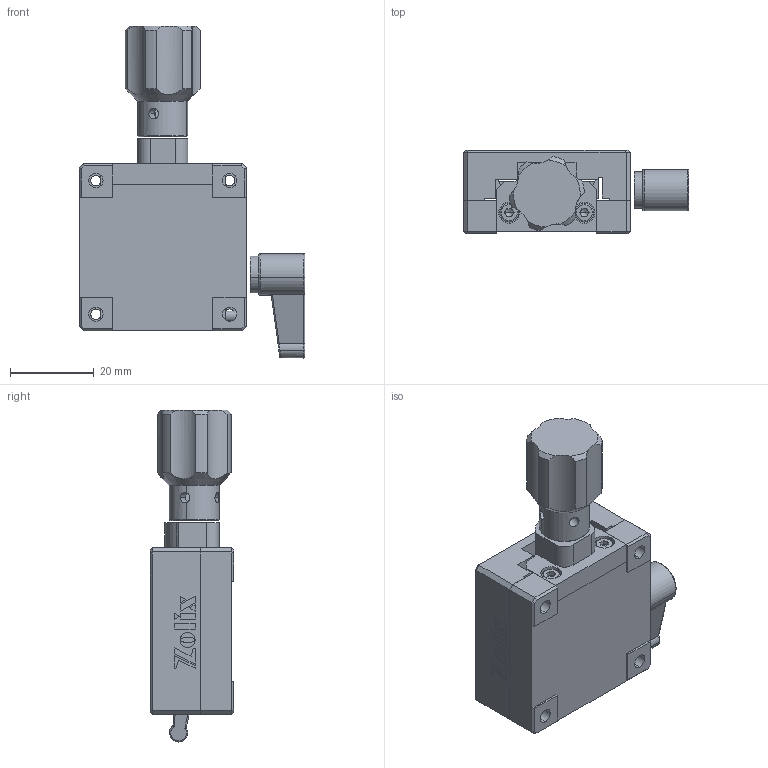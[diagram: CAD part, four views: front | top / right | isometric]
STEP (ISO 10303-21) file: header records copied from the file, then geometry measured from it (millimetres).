
FILE_DESCRIPTION (( 'STEP AP203' ), '1' );
FILE_NAME ('DSM13S-4040E.step', '2019-05-08T10:09:32', ( '' ), ( '' ), 'SwSTEP 2.0', 'SolidWorks 2017', '' );
FILE_SCHEMA (( 'CONFIG_CONTROL_DESIGN' ));
Length unit declared in the file: millimetre
Products named in the file (1): DSM13S-4040E
Bounding box: 54 x 20 x 79.5 mm (x, y, z)
Surface area: 15016.1 mm2 (no closed solid volume)
Topology: 0 solids, 11 shells, 331 faces, 1133 edges, 773 vertices
Faces by surface type: plane 213, cylinder 75, cone 20, torus 18, bspline 5
Entity records: 12528 total; most frequent: CARTESIAN_POINT 2788, DIRECTION 1972, ORIENTED_EDGE 1851, EDGE_CURVE 1125, VECTOR 834, LINE 834, VERTEX_POINT 773, AXIS2_PLACEMENT_3D 569
